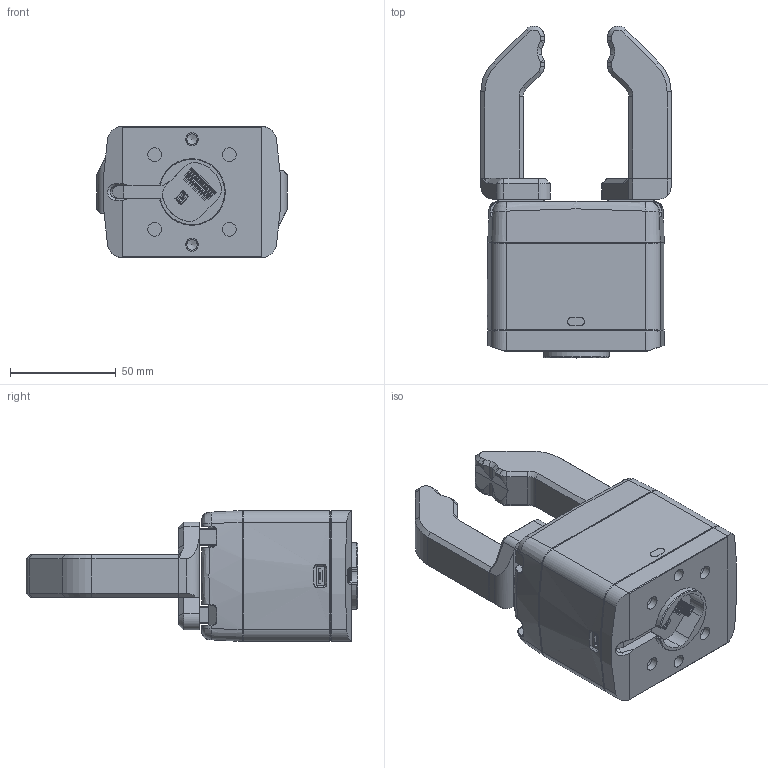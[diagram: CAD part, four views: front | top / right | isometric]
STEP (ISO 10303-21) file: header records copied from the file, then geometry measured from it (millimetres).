
FILE_DESCRIPTION(/* description */ (''),/* implementation_level */ '2;1');
FILE_NAME(/* name */ 'D:\cig_mechanik\Modell\customer\output\GRIPKIT_EASY_customer_with_fingers.stp',/* time_stamp */ '2024-07-23T11:15:36+02:00',/* author */ ('WEISS ROBOTICS GMBH & CO. KG'),/* organization */ (''),/* preprocessor_version */ 'ST-DEVELOPER v17',/* originating_system */ 'Autodesk Inventor 2018',/* authorisation */ '');
FILE_SCHEMA (('AUTOMOTIVE_DESIGN { 1 0 10303 214 3 1 1 }'));
Products named in the file (12): CIG200_customer_with_fingers; CIG200_customer; Tragstruktur; Grundbacke; Flansch; ISO 4762 - M4 x 45; ISO 2338 - 4 h8 x 8; BE 20-020 CUSTOMER; FT 20-CR-90DEG; ISO 4762 - M4 x 12; Zentrierhülse 6-4-5; ISO 2338 - 4 m6 x 10
Assembly tree (27 placements, depth 3):
  CIG200_customer_with_fingers
    CIG200_customer
      Tragstruktur
      Grundbacke  x2
      Flansch
      ISO 4762 - M4 x 45  x2
      ISO 2338 - 4 h8 x 8  x2
    BE 20-020 CUSTOMER  x2
    FT 20-CR-90DEG  x2
    ISO 4762 - M4 x 12  x6
    Zentrierhülse 6-4-5  x4
    ISO 2338 - 4 m6 x 10  x4
Bounding box: 90 x 157.06 x 62 mm (x, y, z)
Volume: 407974.7 mm3; surface area: 80889.7 mm2
Topology: 26 solids, 33 shells, 2711 faces, 7306 edges, 4818 vertices
Faces by surface type: plane 1533, bspline 592, cylinder 378, cone 157, torus 44, sphere 7
Full cylindrical faces by diameter (mm): 1.2 x1, 1.567 x2, 2 x2, 3.242 x8, 3.8 x12, 4 x18, 4.016 x8, 4.03 x4, 4.2 x12, 5 x2, 6 x8, 6.006 x4, 6.037 x2, 6.5 x4, 7 x8, 7.6 x6, 8 x2, 11 x4
Entity records: 95841 total; most frequent: CARTESIAN_POINT 35166, ORIENTED_EDGE 13174, DIRECTION 9911, EDGE_CURVE 6587, LINE 4363, VECTOR 4363, VERTEX_POINT 4348, AXIS2_PLACEMENT_3D 2774
